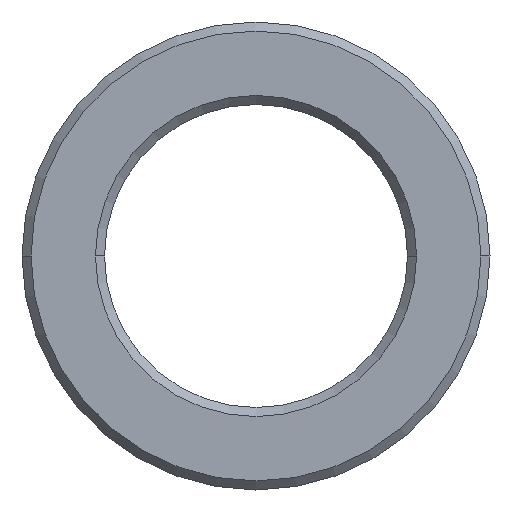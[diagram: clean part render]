
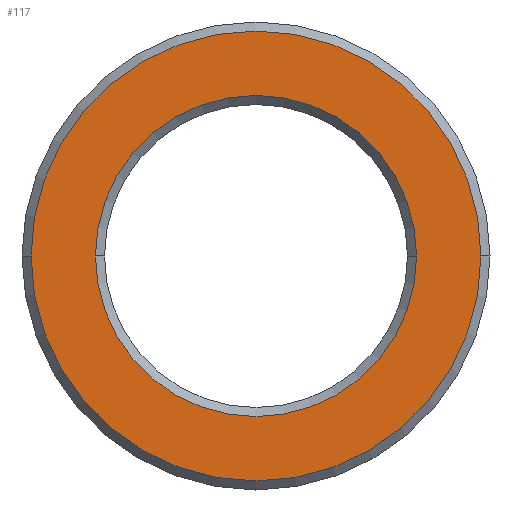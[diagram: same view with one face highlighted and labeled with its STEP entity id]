
A CAD part, front view. The second image highlights one B-rep face of the part: STEP entity #117.
In plain terms, the highlighted planar face has unit normal (0, -1, 0).
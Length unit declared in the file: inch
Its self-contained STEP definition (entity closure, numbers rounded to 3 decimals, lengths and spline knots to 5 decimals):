
#21 = EDGE_CURVE ( 'NONE', #22, #25, #199, .T. ) ;
#22 = VERTEX_POINT ( 'NONE', #194 ) ;
#25 = VERTEX_POINT ( 'NONE', #182 ) ;
#51 = VERTEX_POINT ( 'NONE', #260 ) ;
#57 = VERTEX_POINT ( 'NONE', #239 ) ;
#58 = EDGE_CURVE ( 'NONE', #51, #57, #234, .T. ) ;
#80 = EDGE_LOOP ( 'NONE', ( #118, #114 ) ) ;
#106 = EDGE_CURVE ( 'NONE', #57, #51, #355, .T. ) ;
#111 = ORIENTED_EDGE ( 'NONE', *, *, #21, .T. ) ;
#112 = ORIENTED_EDGE ( 'NONE', *, *, #122, .T. ) ;
#114 = ORIENTED_EDGE ( 'NONE', *, *, #58, .F. ) ;
#115 = EDGE_LOOP ( 'NONE', ( #112, #111 ) ) ;
#117 = ADVANCED_FACE ( 'NONE', ( #360, #359 ), #362, .F. ) ;
#118 = ORIENTED_EDGE ( 'NONE', *, *, #106, .F. ) ;
#122 = EDGE_CURVE ( 'NONE', #25, #22, #369, .T. ) ;
#182 = CARTESIAN_POINT ( 'NONE',  ( -0.746, 0., 0. ) ) ;
#194 = CARTESIAN_POINT ( 'NONE',  ( 0.746, 0., 0. ) ) ;
#195 = DIRECTION ( 'NONE',  ( 1., 0., 0. ) ) ;
#196 = DIRECTION ( 'NONE',  ( 0., -1., 0. ) ) ;
#197 = CARTESIAN_POINT ( 'NONE',  ( 0., 0., 0. ) ) ;
#198 = AXIS2_PLACEMENT_3D ( 'NONE', #197, #196, #195 ) ;
#199 = CIRCLE ( 'NONE', #198, 0.746 ) ;
#230 = DIRECTION ( 'NONE',  ( 1., 0., 0. ) ) ;
#231 = DIRECTION ( 'NONE',  ( 0., -1., 0. ) ) ;
#232 = CARTESIAN_POINT ( 'NONE',  ( 0., 0., 0. ) ) ;
#233 = AXIS2_PLACEMENT_3D ( 'NONE', #232, #231, #230 ) ;
#234 = CIRCLE ( 'NONE', #233, 0.5325 ) ;
#239 = CARTESIAN_POINT ( 'NONE',  ( 0.5325, 0., 0. ) ) ;
#260 = CARTESIAN_POINT ( 'NONE',  ( -0.5325, 0., 0. ) ) ;
#348 = AXIS2_PLACEMENT_3D ( 'NONE', #354, #353, #352 ) ;
#352 = DIRECTION ( 'NONE',  ( 1., 0., 0. ) ) ;
#353 = DIRECTION ( 'NONE',  ( 0., -1., 0. ) ) ;
#354 = CARTESIAN_POINT ( 'NONE',  ( 0., 0., 0. ) ) ;
#355 = CIRCLE ( 'NONE', #348, 0.5325 ) ;
#359 = FACE_OUTER_BOUND ( 'NONE', #115, .T. ) ;
#360 = FACE_BOUND ( 'NONE', #80, .T. ) ;
#361 = CARTESIAN_POINT ( 'NONE',  ( -0.5325, 0., 0. ) ) ;
#362 = PLANE ( 'NONE',  #363 ) ;
#363 = AXIS2_PLACEMENT_3D ( 'NONE', #361, #371, #370 ) ;
#365 = DIRECTION ( 'NONE',  ( 1., 0., 0. ) ) ;
#366 = DIRECTION ( 'NONE',  ( 0., -1., 0. ) ) ;
#367 = CARTESIAN_POINT ( 'NONE',  ( 0., 0., 0. ) ) ;
#368 = AXIS2_PLACEMENT_3D ( 'NONE', #367, #366, #365 ) ;
#369 = CIRCLE ( 'NONE', #368, 0.746 ) ;
#370 = DIRECTION ( 'NONE',  ( -1., 0., 0. ) ) ;
#371 = DIRECTION ( 'NONE',  ( 0., 1., 0. ) ) ;
